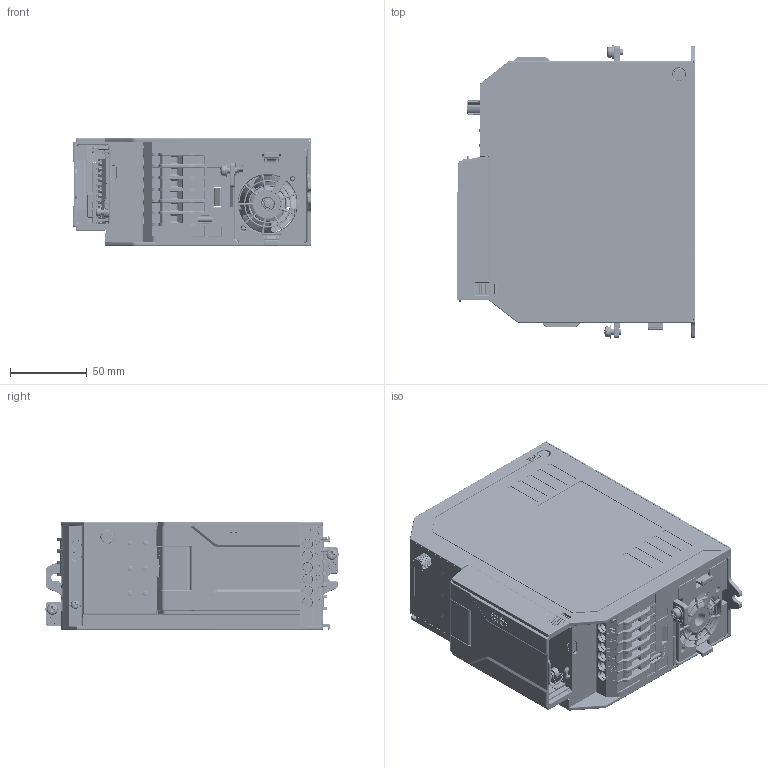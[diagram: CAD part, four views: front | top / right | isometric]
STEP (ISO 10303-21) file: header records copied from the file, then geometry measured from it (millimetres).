
FILE_DESCRIPTION((''),'2;1');
FILE_NAME('ASM0002_ASM','2025-09-11T13:39:12',('Administrator'),(''),'CREO PARAMETRIC BY PTC INC, 2019080','CREO PARAMETRIC BY PTC INC, 2019080','');
FILE_SCHEMA(('CONFIG_CONTROL_DESIGN'));
Products named in the file (3): ASM0002_ASM; 40810244
Assembly tree (2 placements, depth 2):
  ASM0002_ASM
    ASM0002_ASM
    40810244
Bounding box: 155.1 x 190.6 x 70.01 mm (x, y, z)
Volume: 4258.6 mm3; surface area: 350706.6 mm2
Topology: 34 solids, 63 shells, 15815 faces, 43271 edges, 27471 vertices
Faces by surface type: plane 8646, cylinder 3699, extrusion 1261, torus 846, bspline 803, cone 397, sphere 163
Entity records: 568411 total; most frequent: CARTESIAN_POINT 182128, ORIENTED_EDGE 84893, DIRECTION 71575, EDGE_CURVE 43038, VECTOR 29067, LINE 27806, VERTEX_POINT 27463, AXIS2_PLACEMENT_3D 21254
